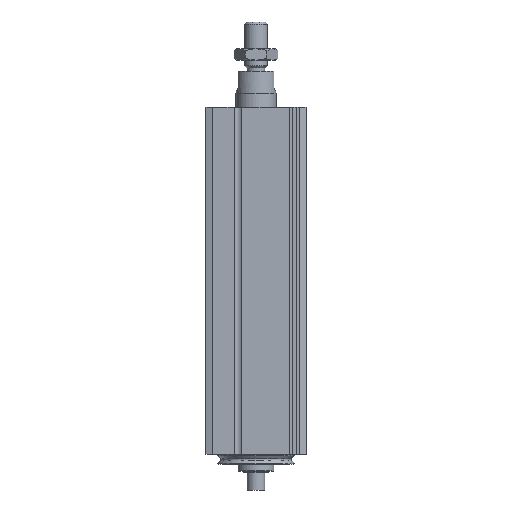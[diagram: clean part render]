
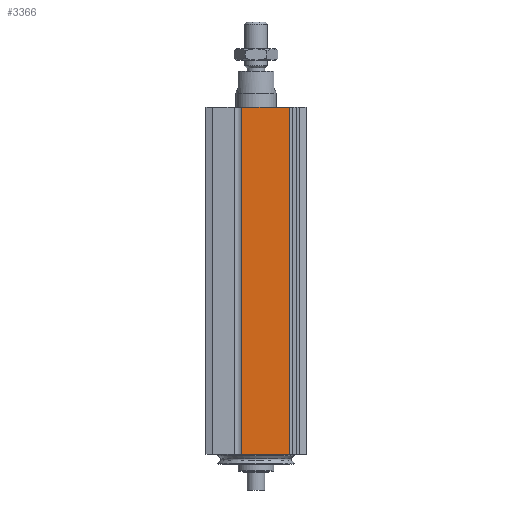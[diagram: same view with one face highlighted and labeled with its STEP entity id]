
A CAD part, left-side view. The second image highlights one B-rep face of the part: STEP entity #3366.
In plain terms, the highlighted planar face has unit normal (-1, 0, 0) as drawn and (0, 0, 1) by its records, which use the part's own axes.
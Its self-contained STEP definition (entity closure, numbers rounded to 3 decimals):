
#97=LINE('',#5547,#339);
#113=LINE('',#5593,#355);
#114=LINE('',#5597,#356);
#115=LINE('',#5599,#357);
#339=VECTOR('',#4304,1000.);
#355=VECTOR('',#4350,1000.);
#356=VECTOR('',#4355,1000.);
#357=VECTOR('',#4356,1000.);
#638=PLANE('',#3707);
#1197=ORIENTED_EDGE('',*,*,#2058,.T.);
#1198=ORIENTED_EDGE('',*,*,#2083,.F.);
#1199=ORIENTED_EDGE('',*,*,#2084,.F.);
#1200=ORIENTED_EDGE('',*,*,#2081,.T.);
#2058=EDGE_CURVE('',#2522,#2521,#97,.T.);
#2081=EDGE_CURVE('',#2537,#2522,#113,.T.);
#2083=EDGE_CURVE('',#2538,#2521,#114,.T.);
#2084=EDGE_CURVE('',#2537,#2538,#115,.T.);
#2521=VERTEX_POINT('',#5546);
#2522=VERTEX_POINT('',#5548);
#2537=VERTEX_POINT('',#5594);
#2538=VERTEX_POINT('',#5598);
#2816=EDGE_LOOP('',(#1197,#1198,#1199,#1200));
#3090=FACE_BOUND('',#2816,.T.);
#3366=ADVANCED_FACE('',(#3090),#638,.F.);
#3707=AXIS2_PLACEMENT_3D('',#5596,#4353,#4354);
#4304=DIRECTION('',(0.,-1.,0.));
#4350=DIRECTION('',(-1.,0.,0.));
#4353=DIRECTION('',(0.,0.,-1.));
#4354=DIRECTION('',(-1.,0.,0.));
#4355=DIRECTION('',(-1.,0.,0.));
#4356=DIRECTION('',(0.,-1.,0.));
#5546=CARTESIAN_POINT('',(0.,-6.3,22.5));
#5547=CARTESIAN_POINT('',(0.,14.82,22.5));
#5548=CARTESIAN_POINT('',(0.,14.82,22.5));
#5593=CARTESIAN_POINT('',(155.,14.82,22.5));
#5594=CARTESIAN_POINT('',(155.,14.82,22.5));
#5596=CARTESIAN_POINT('',(155.,14.82,22.5));
#5597=CARTESIAN_POINT('',(155.,-6.3,22.5));
#5598=CARTESIAN_POINT('',(155.,-6.3,22.5));
#5599=CARTESIAN_POINT('',(155.,14.82,22.5));
